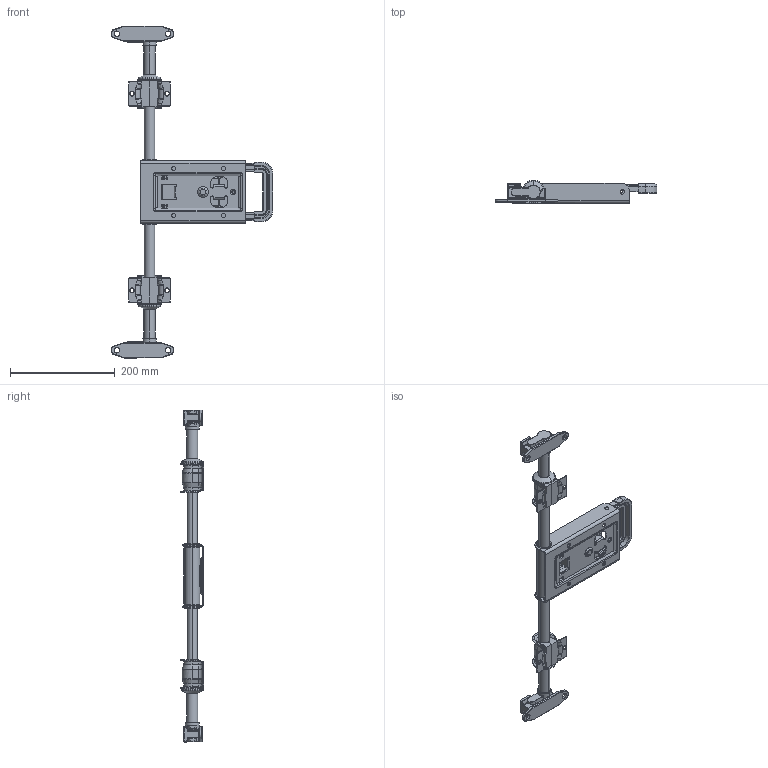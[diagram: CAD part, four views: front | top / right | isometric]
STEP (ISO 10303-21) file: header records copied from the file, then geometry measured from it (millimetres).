
FILE_DESCRIPTION (( 'STEP AP203' ), '1' );
FILE_NAME ('SK1-920.STEP', '2018-09-05T00:17:10', ( 'admin' ), ( 'Microsoft' ), 'SwSTEP 2.0', 'SolidWorks 2015', '' );
FILE_SCHEMA (( 'CONFIG_CONTROL_DESIGN' ));
Length unit declared in the file: millimetre
Products named in the file (16): SK1-920 主体2 垫片1; SK1-920 蜇璃; SK1-920 主体2 垫片2; SK1-920 蜇璃1; SK1-920 翋极2 蜇璃; SK1-920 蜇璃2; SK1-920 翋极2 坶; SK1-920 蜇璃2 -1; SK1-920 翋极2 坶え; SK1-920 蜇璃2 -2; SK1-920 奪; SK1-920 翋极 1 蜇璃; SK1-920; SK1-920 翋极 2; SK1-920 翋极1 蜇璃 ; SK1-920 翋极 1
Assembly tree (21 placements, depth 2):
  SK1-920
    SK1-920 翋极 1
    SK1-920 蜇璃  x2
    SK1-920 蜇璃1  x2
    SK1-920 蜇璃2  x2
    SK1-920 蜇璃2 -1  x2
    SK1-920 蜇璃2 -2  x2
    SK1-920 翋极 1 蜇璃  x2
    SK1-920 翋极 2
    SK1-920 翋极1 蜇璃 
    SK1-920 主体2 垫片1
    SK1-920 主体2 垫片2
    SK1-920 翋极2 蜇璃
    SK1-920 翋极2 坶
    SK1-920 翋极2 坶え
    SK1-920 奪
Bounding box: 308.93 x 44 x 633.5 mm (x, y, z)
Volume: 510721.2 mm3; surface area: 346028 mm2
Topology: 21 solids, 21 shells, 2132 faces, 5287 edges, 3098 vertices
Faces by surface type: cylinder 742, plane 538, bspline 476, torus 221, sphere 119, cone 36
Entity records: 55175 total; most frequent: CARTESIAN_POINT 20145, ORIENTED_EDGE 7186, DIRECTION 6779, EDGE_CURVE 3593, AXIS2_PLACEMENT_3D 2592, VERTEX_POINT 2185, LINE 1595, VECTOR 1595
